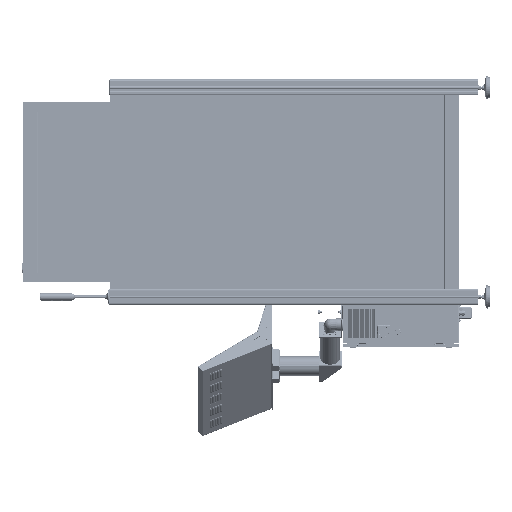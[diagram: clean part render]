
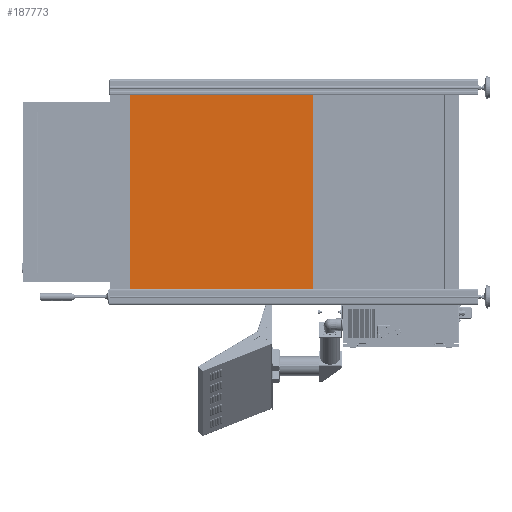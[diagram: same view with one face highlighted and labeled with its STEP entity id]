
A CAD part, left-side view. The second image highlights one B-rep face of the part: STEP entity #187773.
In plain terms, the highlighted planar face has unit normal (-1, 0, 0) as drawn and (0, 0, -1) by its records, which use the part's own axes.
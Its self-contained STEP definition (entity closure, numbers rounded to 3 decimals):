
#4068 = CARTESIAN_POINT ( 'NONE',  ( 510., 1861., -517. ) ) ;
#8176 = DIRECTION ( 'NONE',  ( 0., 0., -1. ) ) ;
#45602 = ORIENTED_EDGE ( 'NONE', *, *, #1161814, .T. ) ;
#165425 = LINE ( 'NONE', #263480, #610689 ) ;
#180160 = EDGE_CURVE ( 'NONE', #992098, #553242, #598544, .T. ) ;
#187773 = ADVANCED_FACE ( 'NONE', ( #700578 ), #576900, .T. ) ;
#263480 = CARTESIAN_POINT ( 'NONE',  ( -510., 893., -517. ) ) ;
#267005 = LINE ( 'NONE', #929673, #995007 ) ;
#359003 = DIRECTION ( 'NONE',  ( 0., 1., 0. ) ) ;
#360814 = DIRECTION ( 'NONE',  ( -1., 0., 0. ) ) ;
#467605 = DIRECTION ( 'NONE',  ( 0., -1., 0. ) ) ;
#501447 = VERTEX_POINT ( 'NONE', #1065578 ) ;
#546134 = DIRECTION ( 'NONE',  ( 1., 0., 0. ) ) ;
#553242 = VERTEX_POINT ( 'NONE', #1183737 ) ;
#576900 = PLANE ( 'NONE',  #652581 ) ;
#598544 = LINE ( 'NONE', #1131706, #881089 ) ;
#610689 = VECTOR ( 'NONE', #359003, 1000. ) ;
#652581 = AXIS2_PLACEMENT_3D ( 'NONE', #4068, #8176, #672275 ) ;
#654660 = CARTESIAN_POINT ( 'NONE',  ( -510., 893., -517. ) ) ;
#672275 = DIRECTION ( 'NONE',  ( -1., 0., 0. ) ) ;
#675500 = ORIENTED_EDGE ( 'NONE', *, *, #845721, .T. ) ;
#682338 = EDGE_CURVE ( 'NONE', #923234, #501447, #165425, .T. ) ;
#700578 = FACE_OUTER_BOUND ( 'NONE', #781692, .T. ) ;
#753583 = CARTESIAN_POINT ( 'NONE',  ( 510., 1861., -517. ) ) ;
#781692 = EDGE_LOOP ( 'NONE', ( #866064, #675500, #1160370, #45602 ) ) ;
#845721 = EDGE_CURVE ( 'NONE', #553242, #923234, #267005, .T. ) ;
#866064 = ORIENTED_EDGE ( 'NONE', *, *, #180160, .T. ) ;
#881089 = VECTOR ( 'NONE', #467605, 1000. ) ;
#923234 = VERTEX_POINT ( 'NONE', #654660 ) ;
#928218 = CARTESIAN_POINT ( 'NONE',  ( -510., 1861., -517. ) ) ;
#929673 = CARTESIAN_POINT ( 'NONE',  ( -510., 893., -517. ) ) ;
#941096 = VECTOR ( 'NONE', #546134, 1000. ) ;
#970884 = LINE ( 'NONE', #928218, #941096 ) ;
#992098 = VERTEX_POINT ( 'NONE', #753583 ) ;
#995007 = VECTOR ( 'NONE', #360814, 1000. ) ;
#1065578 = CARTESIAN_POINT ( 'NONE',  ( -510., 1861., -517. ) ) ;
#1131706 = CARTESIAN_POINT ( 'NONE',  ( 510., 893., -517. ) ) ;
#1160370 = ORIENTED_EDGE ( 'NONE', *, *, #682338, .T. ) ;
#1161814 = EDGE_CURVE ( 'NONE', #501447, #992098, #970884, .T. ) ;
#1183737 = CARTESIAN_POINT ( 'NONE',  ( 510., 893., -517. ) ) ;
